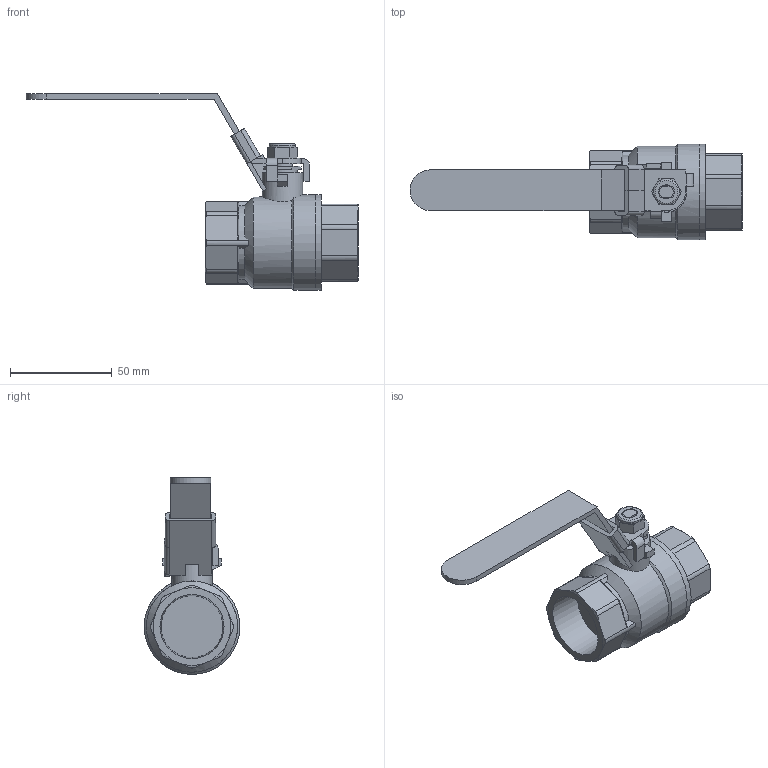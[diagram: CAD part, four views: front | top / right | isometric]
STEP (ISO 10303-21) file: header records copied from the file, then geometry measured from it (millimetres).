
FILE_DESCRIPTION((' '),'2;1');
FILE_NAME('N:\Technical Support\Private\Jomar Valve CAD\Ball Valves\Brass\JF-100T[G]\1.0 JF-100T[G]-LH (100-105[SSG]LH)FusionCopy.stp.step','2017-02-17T16:46:00',(' '),(' '),' ','ACIS',' ');
FILE_SCHEMA(('CONFIG_CONTROL_DESIGN'));
Length unit declared in the file: inch
Products named in the file (8): N:\Technical Support\Private\Jomar Valve CAD\Ball Valves\Brass\JF-100T[G]\1.0 JF-100T[G]-LH (100-105[SSG]LH)FusionCopy.stp.step; Body1; Body2; Body3; Body4; Body5; Body6; Body7
Assembly tree (7 placements, depth 2):
  N:\Technical Support\Private\Jomar Valve CAD\Ball Valves\Brass\JF-100T[G]\1.0 JF-100T[G]-LH (100-105[SSG]LH)FusionCopy.stp.step
    Body1
    Body2
    Body3
    Body4
    Body5
    Body6
    Body7
Bounding box: 163.11 x 46.99 x 96.7 mm (x, y, z)
Volume: 96250.9 mm3; surface area: 32855.1 mm2
Topology: 7 solids, 7 shells, 214 faces, 530 edges, 336 vertices
Faces by surface type: plane 125, cylinder 52, cone 25, bspline 7, torus 5
Full cylindrical faces by diameter (mm): 6.858 x1, 9.906 x1, 10.16 x1, 12.751 x1, 14.478 x1, 19.939 x1, 44.831 x1, 46.99 x2
Entity records: 7444 total; most frequent: CARTESIAN_POINT 1461, ORIENTED_EDGE 1020, DIRECTION 1007, EDGE_CURVE 510, AXIS2_PLACEMENT_3D 352, VERTEX_POINT 329, VECTOR 303, LINE 303
